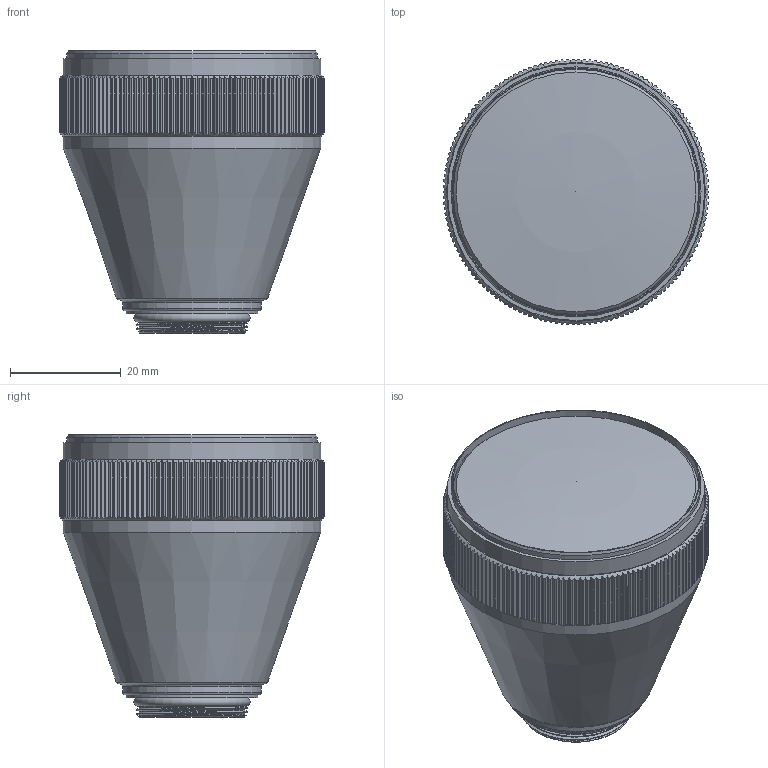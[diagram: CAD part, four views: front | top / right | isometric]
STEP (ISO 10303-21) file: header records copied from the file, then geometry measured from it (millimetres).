
FILE_DESCRIPTION(/* description */ (''),/* implementation_level */ '2;1');
FILE_NAME(/* name */ 'GOT-0511_Obiettivo_50mm.stp',/* time_stamp */ '2021-03-03T16:10:57+01:00',/* author */ (''),/* organization */ (''),/* preprocessor_version */ 'ST-DEVELOPER v16.7',/* originating_system */ 'SIEMENS PLM Software NX 12.0',/* authorisation */ '');
FILE_SCHEMA (('AUTOMOTIVE_DESIGN { 1 0 10303 214 3 1 1 1 }'));
Length unit declared in the file: millimetre
Products named in the file (1): MBra482C96C8ecsk
Bounding box: 48 x 47.99 x 51 mm (x, y, z)
Volume: 35045.3 mm3; surface area: 17890.6 mm2
Topology: 4 solids, 4 shells, 646 faces, 1890 edges, 1254 vertices
Faces by surface type: cylinder 313, plane 311, cone 10, torus 6, bspline 4, sphere 2
Full cylindrical faces by diameter (mm): 17.5 x1, 18.8 x1, 23.8 x1, 25.1 x1, 44.35 x1, 44.5 x1, 45.2 x1, 46.5 x2
Entity records: 26531 total; most frequent: CARTESIAN_POINT 11505, ORIENTED_EDGE 3760, DIRECTION 2282, EDGE_CURVE 1880, VERTEX_POINT 1254, B_SPLINE_CURVE_WITH_KNOTS 1219, AXIS2_PLACEMENT_3D 982, EDGE_LOOP 656
